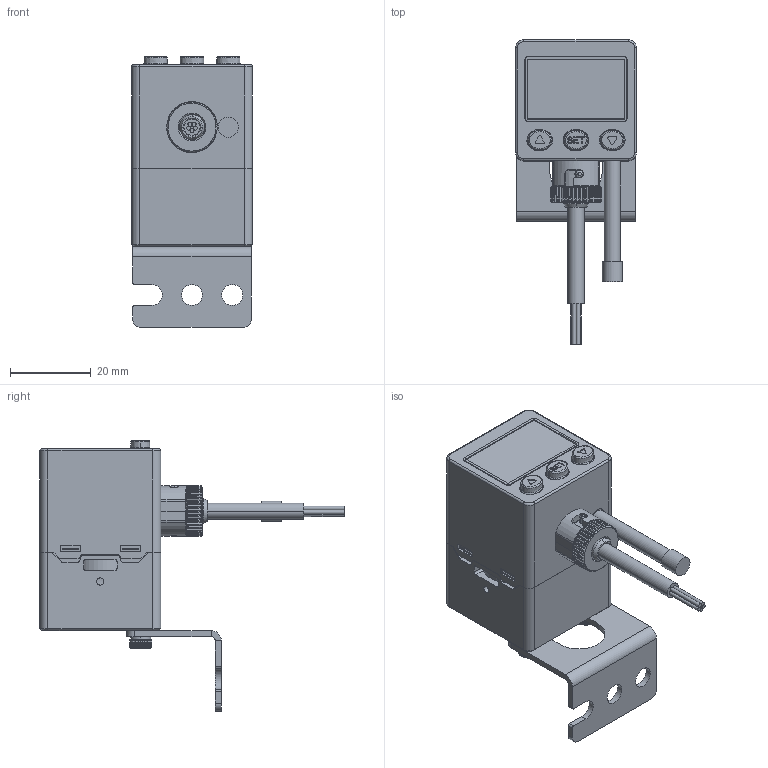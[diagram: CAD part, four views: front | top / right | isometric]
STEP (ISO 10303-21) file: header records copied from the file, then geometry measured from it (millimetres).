
FILE_DESCRIPTION((''),'2;1');
FILE_NAME('KDS_BT-18','2019-07-03T',('Stark'),(''),'CREO PARAMETRIC BY PTC INC, 2014500','CREO PARAMETRIC BY PTC INC, 2014500','');
FILE_SCHEMA(('CONFIG_CONTROL_DESIGN'));
Products named in the file (1): KDS_BT-18
Bounding box: 30 x 75.5 x 67.1 mm (x, y, z)
Volume: 43417.9 mm3; surface area: 12358.8 mm2
Topology: 1 solids, 1 shells, 1265 faces, 3400 edges, 2169 vertices
Faces by surface type: plane 601, cylinder 326, cone 216, bspline 92, torus 24, extrusion 6
Entity records: 51931 total; most frequent: CARTESIAN_POINT 22212, ORIENTED_EDGE 6796, DIRECTION 5357, EDGE_CURVE 3398, VERTEX_POINT 2169, AXIS2_PLACEMENT_3D 1956, VECTOR 1445, LINE 1439
